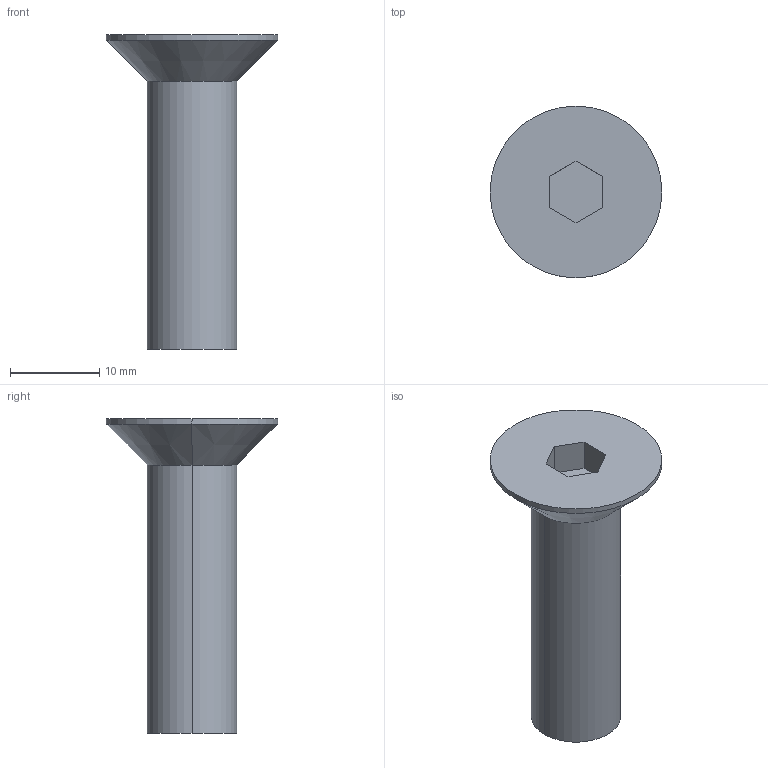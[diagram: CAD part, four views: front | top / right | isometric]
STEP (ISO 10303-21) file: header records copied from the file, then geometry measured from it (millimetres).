
FILE_DESCRIPTION (( 'STEP AP214' ), '1' );
FILE_NAME ('COUNTERSHUNK_HEAD_BOLT_M10(L=030).STEP', '2021-09-18T10:21:32', ( '' ), ( '' ), 'SwSTEP 2.0', 'SolidWorks 2018', '' );
FILE_SCHEMA (( 'AUTOMOTIVE_DESIGN' ));
Length unit declared in the file: millimetre
Products named in the file (1): COUNTERSHUNK_HEAD_BOLT_M10(L=030)
Bounding box: 19.22 x 19.22 x 35.22 mm (x, y, z)
Volume: 3219.4 mm3; surface area: 1722 mm2
Topology: 1 solids, 1 shells, 15 faces, 32 edges, 20 vertices
Faces by surface type: plane 9, cylinder 4, cone 2
Entity records: 436 total; most frequent: DIRECTION 72, CARTESIAN_POINT 68, ORIENTED_EDGE 64, EDGE_CURVE 32, LINE 24, AXIS2_PLACEMENT_3D 24, VECTOR 24, VERTEX_POINT 20
